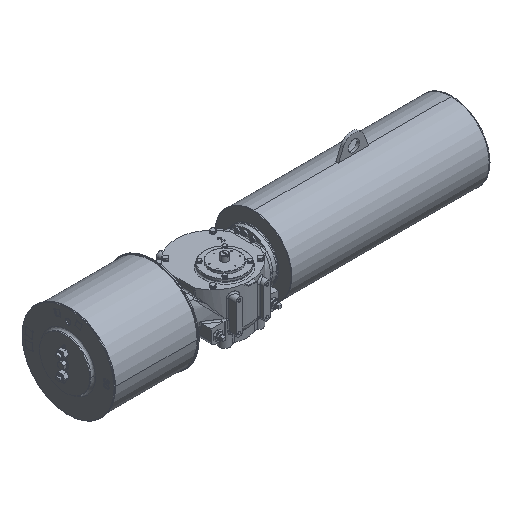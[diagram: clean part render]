
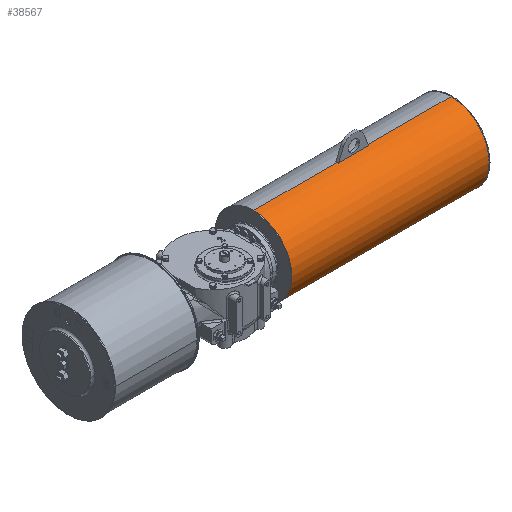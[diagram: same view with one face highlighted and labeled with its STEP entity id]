
A CAD part, isometric view. The second image highlights one B-rep face of the part: STEP entity #38567.
In plain terms, the highlighted cylindrical face has radius 136.5 mm (diameter 273 mm), a partial arc.
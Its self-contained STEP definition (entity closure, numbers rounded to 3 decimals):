
#977 = LINE ( 'NONE', #27477, #38372 ) ;
#1111 = AXIS2_PLACEMENT_3D ( 'NONE', #40100, #23296, #22590 ) ;
#3054 = EDGE_CURVE ( 'NONE', #9110, #30693, #6743, .T. ) ;
#6743 = CIRCLE ( 'NONE', #29621, 136.5 ) ;
#7191 = VECTOR ( 'NONE', #64253, 1000. ) ;
#7658 = VERTEX_POINT ( 'NONE', #26213 ) ;
#7697 = VERTEX_POINT ( 'NONE', #65539 ) ;
#8451 = AXIS2_PLACEMENT_3D ( 'NONE', #40373, #28216, #50030 ) ;
#9110 = VERTEX_POINT ( 'NONE', #66147 ) ;
#10479 = LINE ( 'NONE', #54498, #42962 ) ;
#10831 = DIRECTION ( 'NONE',  ( -1., 0., 0. ) ) ;
#12740 = DIRECTION ( 'NONE',  ( 0., -1., 0. ) ) ;
#12865 = AXIS2_PLACEMENT_3D ( 'NONE', #35724, #46469, #31047 ) ;
#14441 = DIRECTION ( 'NONE',  ( 1., 0., 0. ) ) ;
#15251 = LINE ( 'NONE', #16678, #7191 ) ;
#15538 = EDGE_CURVE ( 'NONE', #65555, #35172, #38989, .T. ) ;
#16678 = CARTESIAN_POINT ( 'NONE',  ( 183.477, 35.296, 138.5 ) ) ;
#16763 = CARTESIAN_POINT ( 'NONE',  ( 479.477, 35.296, 2. ) ) ;
#17180 = CARTESIAN_POINT ( 'NONE',  ( 179.977, 35.296, 2. ) ) ;
#17927 = ORIENTED_EDGE ( 'NONE', *, *, #67170, .T. ) ;
#19151 = EDGE_CURVE ( 'NONE', #9110, #46347, #15251, .T. ) ;
#21064 = CIRCLE ( 'NONE', #29067, 136.5 ) ;
#21517 = DIRECTION ( 'NONE',  ( 0., 0., 1. ) ) ;
#22590 = DIRECTION ( 'NONE',  ( 0., 0., 1. ) ) ;
#23296 = DIRECTION ( 'NONE',  ( 1., 0., 0. ) ) ;
#24847 = ORIENTED_EDGE ( 'NONE', *, *, #30976, .T. ) ;
#25385 = ORIENTED_EDGE ( 'NONE', *, *, #31527, .T. ) ;
#26213 = CARTESIAN_POINT ( 'NONE',  ( 179.977, -101.204, 2. ) ) ;
#27477 = CARTESIAN_POINT ( 'NONE',  ( 183.477, 35.296, -134.5 ) ) ;
#28216 = DIRECTION ( 'NONE',  ( 1., 0., 0. ) ) ;
#28482 = DIRECTION ( 'NONE',  ( 1., 0., 0. ) ) ;
#29067 = AXIS2_PLACEMENT_3D ( 'NONE', #17180, #60828, #21517 ) ;
#29621 = AXIS2_PLACEMENT_3D ( 'NONE', #49959, #28482, #12740 ) ;
#30693 = VERTEX_POINT ( 'NONE', #63308 ) ;
#30976 = EDGE_CURVE ( 'NONE', #67669, #7658, #39278, .T. ) ;
#31047 = DIRECTION ( 'NONE',  ( 0., 0., 1. ) ) ;
#31527 = EDGE_CURVE ( 'NONE', #7658, #7697, #21064, .T. ) ;
#35172 = VERTEX_POINT ( 'NONE', #55451 ) ;
#35724 = CARTESIAN_POINT ( 'NONE',  ( 886.977, 35.296, 2. ) ) ;
#38372 = VECTOR ( 'NONE', #43229, 1000. ) ;
#38567 = ADVANCED_FACE ( 'NONE', ( #67261 ), #44406, .T. ) ;
#38989 = CIRCLE ( 'NONE', #57273, 136.5 ) ;
#39278 = CIRCLE ( 'NONE', #8451, 136.5 ) ;
#39861 = CARTESIAN_POINT ( 'NONE',  ( 886.977, 35.296, 138.5 ) ) ;
#40100 = CARTESIAN_POINT ( 'NONE',  ( 183.477, 35.296, 2. ) ) ;
#40373 = CARTESIAN_POINT ( 'NONE',  ( 179.977, 35.296, 2. ) ) ;
#41816 = ORIENTED_EDGE ( 'NONE', *, *, #42809, .T. ) ;
#42809 = EDGE_CURVE ( 'NONE', #7697, #46610, #977, .T. ) ;
#42962 = VECTOR ( 'NONE', #10831, 1000. ) ;
#43229 = DIRECTION ( 'NONE',  ( 1., 0., 0. ) ) ;
#43459 = ORIENTED_EDGE ( 'NONE', *, *, #15538, .T. ) ;
#43610 = DIRECTION ( 'NONE',  ( 0., 1., 0. ) ) ;
#44406 = CYLINDRICAL_SURFACE ( 'NONE', #1111, 136.5 ) ;
#46347 = VERTEX_POINT ( 'NONE', #39861 ) ;
#46469 = DIRECTION ( 'NONE',  ( -1., 0., 0. ) ) ;
#46610 = VERTEX_POINT ( 'NONE', #53047 ) ;
#49873 = CARTESIAN_POINT ( 'NONE',  ( 479.477, 30.296, 138.408 ) ) ;
#49959 = CARTESIAN_POINT ( 'NONE',  ( 587.477, 35.296, 2. ) ) ;
#50030 = DIRECTION ( 'NONE',  ( 0., 0., 1. ) ) ;
#51246 = EDGE_CURVE ( 'NONE', #30693, #65555, #10479, .T. ) ;
#51880 = EDGE_LOOP ( 'NONE', ( #24847, #25385, #41816, #17927, #51949, #62820, #67987, #43459, #56807 ) ) ;
#51949 = ORIENTED_EDGE ( 'NONE', *, *, #19151, .F. ) ;
#53047 = CARTESIAN_POINT ( 'NONE',  ( 886.977, 35.296, -134.5 ) ) ;
#54498 = CARTESIAN_POINT ( 'NONE',  ( 183.477, 30.296, 138.408 ) ) ;
#55451 = CARTESIAN_POINT ( 'NONE',  ( 479.477, 35.296, 138.5 ) ) ;
#56807 = ORIENTED_EDGE ( 'NONE', *, *, #59589, .F. ) ;
#57273 = AXIS2_PLACEMENT_3D ( 'NONE', #16763, #59329, #43610 ) ;
#58759 = LINE ( 'NONE', #69855, #60281 ) ;
#59329 = DIRECTION ( 'NONE',  ( -1., 0., 0. ) ) ;
#59589 = EDGE_CURVE ( 'NONE', #67669, #35172, #58759, .T. ) ;
#60281 = VECTOR ( 'NONE', #14441, 1000. ) ;
#60828 = DIRECTION ( 'NONE',  ( 1., 0., 0. ) ) ;
#61941 = CIRCLE ( 'NONE', #12865, 136.5 ) ;
#62820 = ORIENTED_EDGE ( 'NONE', *, *, #3054, .T. ) ;
#63308 = CARTESIAN_POINT ( 'NONE',  ( 587.477, 30.296, 138.408 ) ) ;
#64253 = DIRECTION ( 'NONE',  ( 1., 0., 0. ) ) ;
#65539 = CARTESIAN_POINT ( 'NONE',  ( 179.977, 35.296, -134.5 ) ) ;
#65555 = VERTEX_POINT ( 'NONE', #49873 ) ;
#66147 = CARTESIAN_POINT ( 'NONE',  ( 587.477, 35.296, 138.5 ) ) ;
#67170 = EDGE_CURVE ( 'NONE', #46610, #46347, #61941, .T. ) ;
#67261 = FACE_OUTER_BOUND ( 'NONE', #51880, .T. ) ;
#67669 = VERTEX_POINT ( 'NONE', #69348 ) ;
#67987 = ORIENTED_EDGE ( 'NONE', *, *, #51246, .T. ) ;
#69348 = CARTESIAN_POINT ( 'NONE',  ( 179.977, 35.296, 138.5 ) ) ;
#69855 = CARTESIAN_POINT ( 'NONE',  ( 183.477, 35.296, 138.5 ) ) ;
